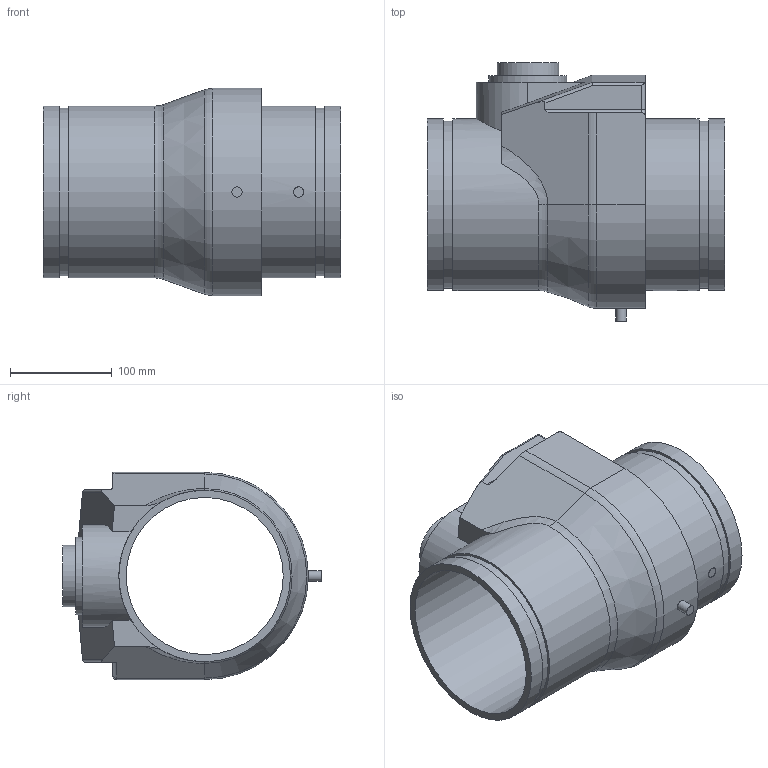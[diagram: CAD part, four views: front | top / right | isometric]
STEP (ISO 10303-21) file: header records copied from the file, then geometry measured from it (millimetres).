
FILE_DESCRIPTION(/* description */ ('VIC FIRELOCK CHECK VALVE SERIES 717','CAx-IF Rec.Pracs.---Representation and Presentation of Product Manufacturing Information (PMI)---4.0---2014-10-13'),/* implementation_level */ '2;1');
FILE_NAME(/* name */ 'C:\Users\Vjadhav\AppData\Roaming\Autodesk\ApplicationPlugins\Back Up\Victaulic_FP-FireLock_Valve Check_Series 717 (OGS)\Victaulic_FP-FireLock_Valve Check_6 (150).stp',/* time_stamp */ '2020-07-17T15:00:41+06:00',/* author */ ('kkamble'),/* organization */ ('Victaulic'),/* preprocessor_version */ 'ST-DEVELOPER v17.2',/* originating_system */ 'Autodesk Inventor 2019',/* authorisation */ '');
FILE_SCHEMA (('AP242_MANAGED_MODEL_BASED_3D_ENGINEERING_MIM_LF { 1 0 10303 442 1 1 4 }'));
Length unit declared in the file: inch
Products named in the file (2): 717-06.0; 717 - 06.0
Assembly tree (1 placements, depth 2):
  717-06.0
    717 - 06.0
Bounding box: 292.1 x 253.49 x 203.2 mm (x, y, z)
Volume: 2953089.4 mm3; surface area: 362961.9 mm2
Topology: 2 solids, 2 shells, 63 faces, 156 edges, 104 vertices
Faces by surface type: plane 30, cylinder 26, torus 4, bspline 2, cone 1
Full cylindrical faces by diameter (mm): 10.16 x2, 60.325 x1, 76.2 x1, 154.051 x1, 163.957 x2, 168.275 x4
Entity records: 2165 total; most frequent: CARTESIAN_POINT 448, DIRECTION 359, ORIENTED_EDGE 314, EDGE_CURVE 157, AXIS2_PLACEMENT_3D 143, VERTEX_POINT 106, EDGE_LOOP 73, LINE 73
